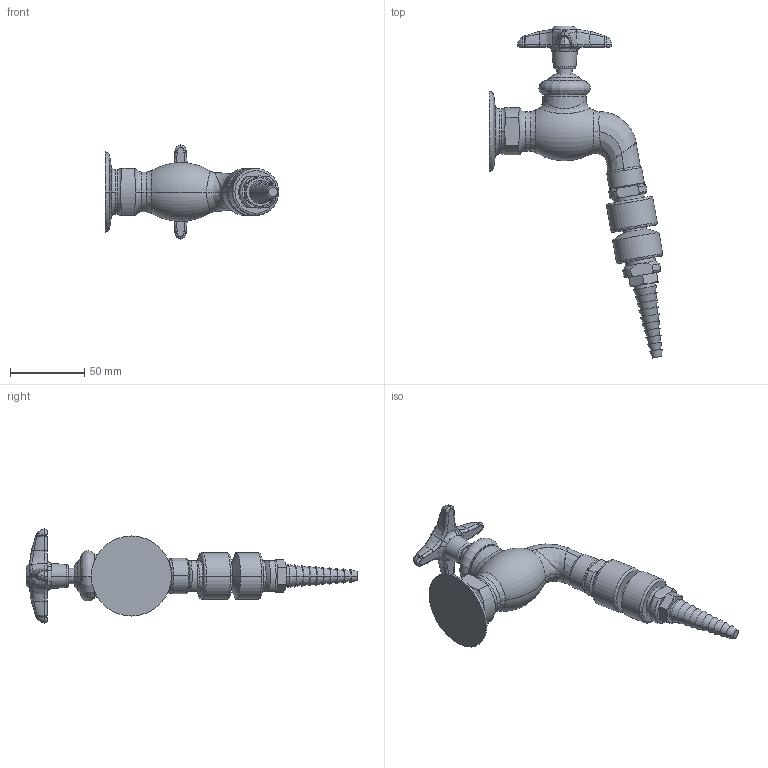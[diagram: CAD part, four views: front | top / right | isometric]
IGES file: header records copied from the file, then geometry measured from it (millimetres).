
Start section:  PTC IGES file: LWV3-B42.igs
Global section: file name: LWV3-B42.igs; native system: Creo Parametric by PTC Inc.; preprocessor: 2014500; author: usch_engrender; organization: Unknown; date: 20150910.121646; units: inch
Bounding box: 116.95 x 223.87 x 63.42 mm (x, y, z)
Volume: 163911.8 mm3; surface area: 33916.1 mm2
Topology: 1 solids, 4 shells, 416 faces, 990 edges, 597 vertices
Faces by surface type: bspline 258, revolution 158
